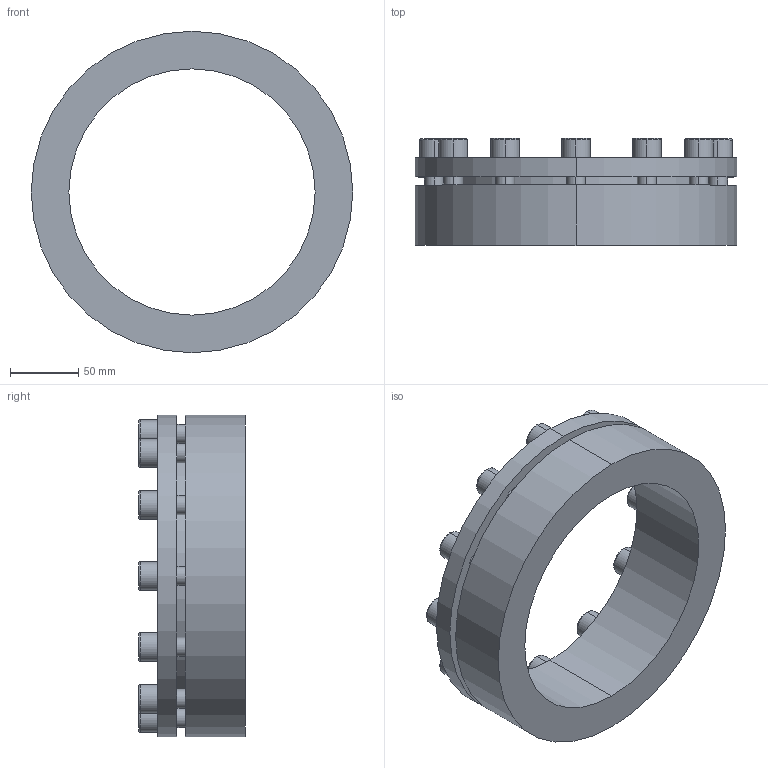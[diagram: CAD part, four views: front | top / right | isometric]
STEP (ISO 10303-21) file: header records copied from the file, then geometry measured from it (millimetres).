
FILE_DESCRIPTION (( 'STEP AP203' ), '1' );
FILE_NAME ('PL-H3 180-235.STEP', '2021-10-23T01:11:14', ( '' ), ( '' ), 'SwSTEP 2.0', 'SolidWorks 2018', '' );
FILE_SCHEMA (( 'CONFIG_CONTROL_DESIGN' ));
Length unit declared in the file: millimetre
Products named in the file (1): PL-H3 180-235
Bounding box: 235 x 78 x 235 mm (x, y, z)
Volume: 1117611 mm3; surface area: 161610.2 mm2
Topology: 1 solids, 1 shells, 180 faces, 432 edges, 280 vertices
Faces by surface type: plane 100, cylinder 56, torus 24
Entity records: 5373 total; most frequent: DIRECTION 954, CARTESIAN_POINT 893, ORIENTED_EDGE 864, EDGE_CURVE 432, AXIS2_PLACEMENT_3D 341, VERTEX_POINT 280, LINE 272, VECTOR 272
